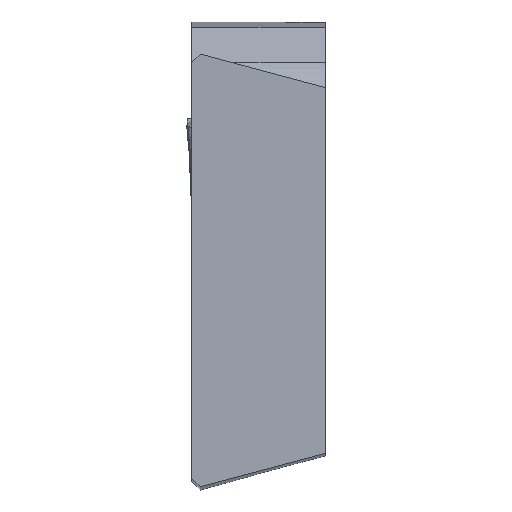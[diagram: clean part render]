
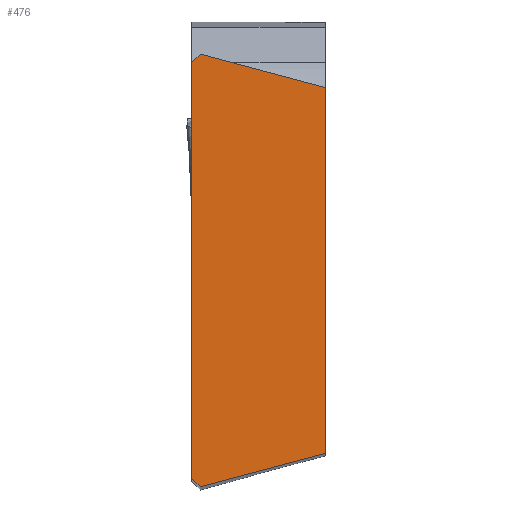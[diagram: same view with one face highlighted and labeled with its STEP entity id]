
A CAD part, top view. The second image highlights one B-rep face of the part: STEP entity #476.
In plain terms, the highlighted planar face has unit normal (0, 0, 1).
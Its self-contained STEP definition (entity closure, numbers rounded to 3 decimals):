
#440=AXIS2_PLACEMENT_3D('Plane Axis2P3D',#437,#438,#439) ;
#328=CARTESIAN_POINT('Vertex',(0.5,25.866,0.)) ;
#333=CARTESIAN_POINT('Line Origine',(4.22,24.869,0.)) ;
#337=CARTESIAN_POINT('Vertex',(7.94,23.872,0.)) ;
#421=CARTESIAN_POINT('Vertex',(0.,25.366,0.)) ;
#424=CARTESIAN_POINT('Line Origine',(0.25,25.616,0.)) ;
#437=CARTESIAN_POINT('Axis2P3D Location',(1.2,21.42,0.)) ;
#442=CARTESIAN_POINT('Line Origine',(0.,13.,0.)) ;
#446=CARTESIAN_POINT('Vertex',(0.,0.634,0.)) ;
#449=CARTESIAN_POINT('Line Origine',(0.25,0.384,0.)) ;
#453=CARTESIAN_POINT('Vertex',(0.5,0.134,0.)) ;
#456=CARTESIAN_POINT('Line Origine',(4.22,1.131,0.)) ;
#460=CARTESIAN_POINT('Vertex',(7.94,2.128,0.)) ;
#463=CARTESIAN_POINT('Line Origine',(7.94,13.,0.)) ;
#334=DIRECTION('Vector Direction',(-0.966,0.259,0.)) ;
#425=DIRECTION('Vector Direction',(0.707,0.707,0.)) ;
#438=DIRECTION('Axis2P3D Direction',(0.,0.,-1.)) ;
#439=DIRECTION('Axis2P3D XDirection',(-1.,0.,0.)) ;
#443=DIRECTION('Vector Direction',(0.,-1.,0.)) ;
#450=DIRECTION('Vector Direction',(-0.707,0.707,0.)) ;
#457=DIRECTION('Vector Direction',(-0.966,-0.259,0.)) ;
#464=DIRECTION('Vector Direction',(0.,1.,0.)) ;
#335=VECTOR('Line Direction',#334,1.) ;
#426=VECTOR('Line Direction',#425,1.) ;
#444=VECTOR('Line Direction',#443,1.) ;
#451=VECTOR('Line Direction',#450,1.) ;
#458=VECTOR('Line Direction',#457,1.) ;
#465=VECTOR('Line Direction',#464,1.) ;
#469=ORIENTED_EDGE('',*,*,#339,.T.) ;
#470=ORIENTED_EDGE('',*,*,#428,.F.) ;
#471=ORIENTED_EDGE('',*,*,#448,.F.) ;
#472=ORIENTED_EDGE('',*,*,#455,.F.) ;
#473=ORIENTED_EDGE('',*,*,#462,.F.) ;
#474=ORIENTED_EDGE('',*,*,#467,.F.) ;
#476=ADVANCED_FACE('NO_CUT',(#475),#441,.F.) ;
#339=EDGE_CURVE('',#338,#329,#336,.T.) ;
#428=EDGE_CURVE('',#422,#329,#427,.T.) ;
#448=EDGE_CURVE('',#447,#422,#445,.F.) ;
#455=EDGE_CURVE('',#454,#447,#452,.T.) ;
#462=EDGE_CURVE('',#461,#454,#459,.T.) ;
#467=EDGE_CURVE('',#338,#461,#466,.F.) ;
#468=EDGE_LOOP('',(#469,#470,#471,#472,#473,#474)) ;
#475=FACE_OUTER_BOUND('',#468,.T.) ;
#336=LINE('Line',#333,#335) ;
#427=LINE('Line',#424,#426) ;
#445=LINE('Line',#442,#444) ;
#452=LINE('Line',#449,#451) ;
#459=LINE('Line',#456,#458) ;
#466=LINE('Line',#463,#465) ;
#441=PLANE('',#440) ;
#329=VERTEX_POINT('',#328) ;
#338=VERTEX_POINT('',#337) ;
#422=VERTEX_POINT('',#421) ;
#447=VERTEX_POINT('',#446) ;
#454=VERTEX_POINT('',#453) ;
#461=VERTEX_POINT('',#460) ;
